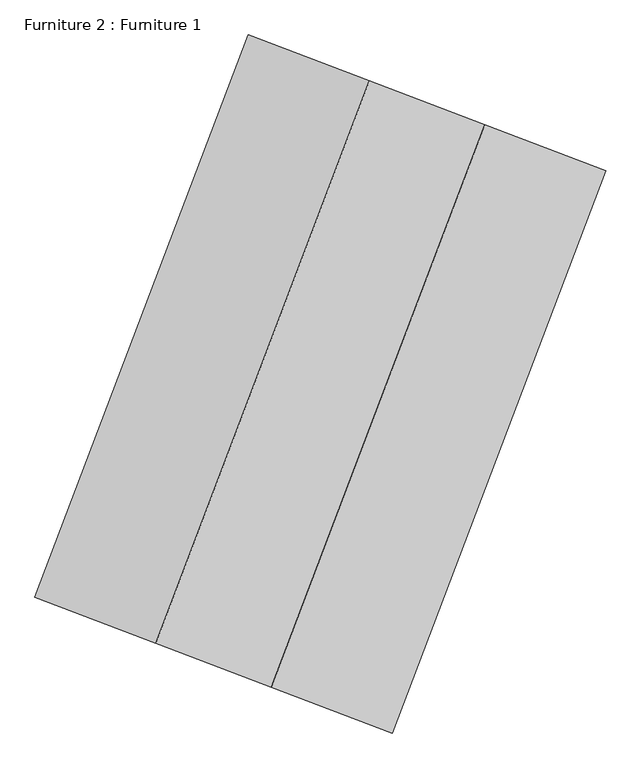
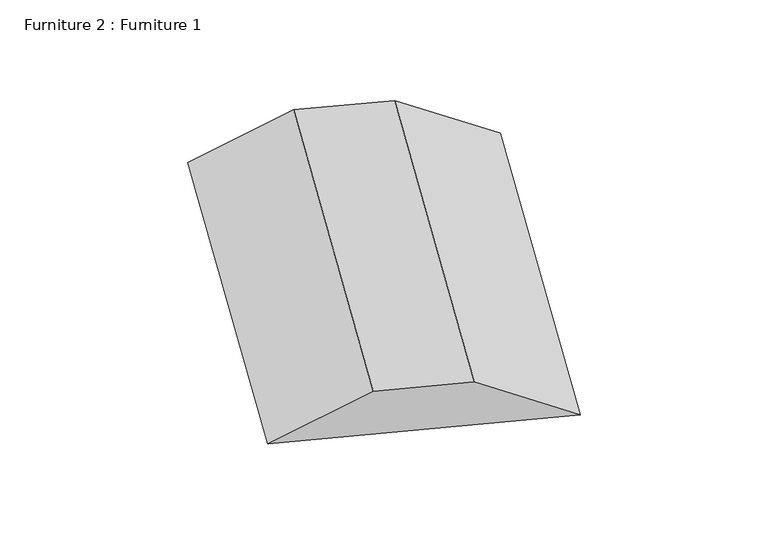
"""IFC4 building model written with IfcOpenShell, lengths in millimetres: furniture geometry, Furniture 2 : Furniture 1."""

from ifc_helpers import new_model, si_unit, frame, origin, place, context, project, spatial, polyline, outline, extrude, source, transform, mapped, element, save


def furniture_2_furniture_1_e683d8f9(model_context):
    return source(origin(), model_context, "Body", "SweptSolid", [
        extrude(outline(polyline([(1042.1492263, 0.0), (4452.8032056, 0.0), (8022.8990941, -1741.2521091), (-2527.9466623, -1741.2521091), (1042.1492263, 0.0)])), frame((465856.9883716, -24025.7203411, 9620.8401372), z_axis=(0.35491188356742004, 0.9348997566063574, 0.0), x_axis=(-0.9348997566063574, 0.35491188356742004, 0.0)), (0.0, 0.0, 1.0), 16606.4305029),
    ])


if __name__ == "__main__":
    model = new_model("IFC4")
    model_context = context("Model", 3, world=origin())
    ifc_project = project(units=[si_unit("LENGTHUNIT", "METRE", prefix="MILLI")], contexts=[model_context])
    site = spatial("IfcSite", under=ifc_project)
    building = spatial("IfcBuilding", under=site)
    placement = place(None, origin())
    furniture_2_furniture_1_shape = furniture_2_furniture_1_e683d8f9(model_context)
    element("IfcFurniture", 1, ObjectType="Furniture 2 : Furniture 1", at=placement, inside=building, context=model_context, shape_type="MappedRepresentation", body=[
        mapped(furniture_2_furniture_1_shape, transform((0.0, 0.0, 0.0), x_axis=(1.0, 0.0, 0.0), y_axis=(0.0, 1.0, 0.0), z_axis=(0.0, 0.0, 1.0))),
    ])
    save(model, "model.ifc")
